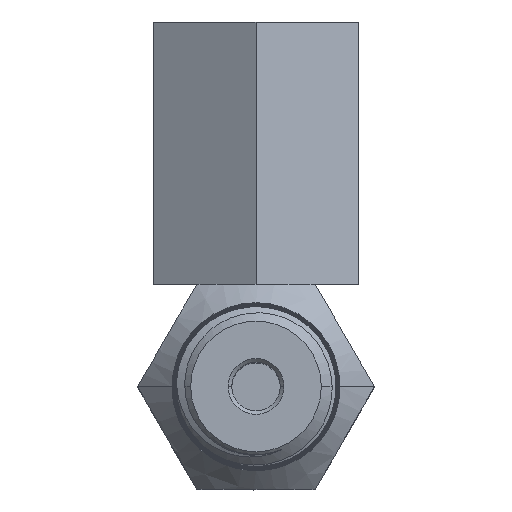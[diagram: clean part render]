
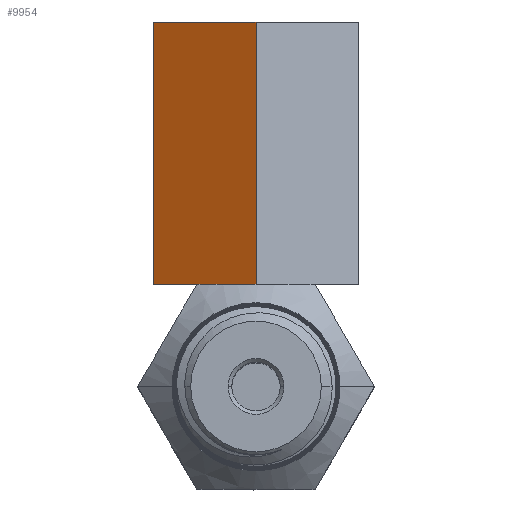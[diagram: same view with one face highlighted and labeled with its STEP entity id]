
A CAD part, top view. The second image highlights one B-rep face of the part: STEP entity #9954.
In plain terms, the highlighted planar face has unit normal (-0.5, 0, 0.866).
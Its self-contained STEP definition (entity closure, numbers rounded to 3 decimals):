
#9789 = VERTEX_POINT('',#9790);
#9790 = CARTESIAN_POINT('',(-6.35,22.606,-25.925));
#9796 = EDGE_CURVE('',#9789,#9797,#9799,.T.);
#9797 = VERTEX_POINT('',#9798);
#9798 = CARTESIAN_POINT('',(0.,22.606,-22.259));
#9799 = LINE('',#9800,#9801);
#9800 = CARTESIAN_POINT('',(-6.35,22.606,-25.925));
#9801 = VECTOR('',#9802,1.);
#9802 = DIRECTION('',(0.866,0.,0.5));
#9855 = VERTEX_POINT('',#9856);
#9856 = CARTESIAN_POINT('',(0.,6.35,-22.259));
#9862 = EDGE_CURVE('',#9863,#9855,#9865,.T.);
#9863 = VERTEX_POINT('',#9864);
#9864 = CARTESIAN_POINT('',(-6.35,6.35,-25.925));
#9865 = LINE('',#9866,#9867);
#9866 = CARTESIAN_POINT('',(-6.35,6.35,-25.925));
#9867 = VECTOR('',#9868,1.);
#9868 = DIRECTION('',(0.866,0.,0.5));
#9942 = EDGE_CURVE('',#9789,#9863,#9943,.T.);
#9943 = LINE('',#9944,#9945);
#9944 = CARTESIAN_POINT('',(-6.35,22.606,-25.925));
#9945 = VECTOR('',#9946,1.);
#9946 = DIRECTION('',(0.,-1.,0.));
#9954 = ADVANCED_FACE('',(#9955),#9966,.F.);
#9955 = FACE_BOUND('',#9956,.T.);
#9956 = EDGE_LOOP('',(#9957,#9958,#9964,#9965));
#9957 = ORIENTED_EDGE('',*,*,#9862,.T.);
#9958 = ORIENTED_EDGE('',*,*,#9959,.F.);
#9959 = EDGE_CURVE('',#9797,#9855,#9960,.T.);
#9960 = LINE('',#9961,#9962);
#9961 = CARTESIAN_POINT('',(0.,22.606,-22.259));
#9962 = VECTOR('',#9963,1.);
#9963 = DIRECTION('',(0.,-1.,0.));
#9964 = ORIENTED_EDGE('',*,*,#9796,.F.);
#9965 = ORIENTED_EDGE('',*,*,#9942,.T.);
#9966 = PLANE('',#9967);
#9967 = AXIS2_PLACEMENT_3D('',#9968,#9969,#9970);
#9968 = CARTESIAN_POINT('',(-6.35,22.606,-25.925));
#9969 = DIRECTION('',(0.5,0.,-0.866));
#9970 = DIRECTION('',(-0.866,0.,-0.5));
